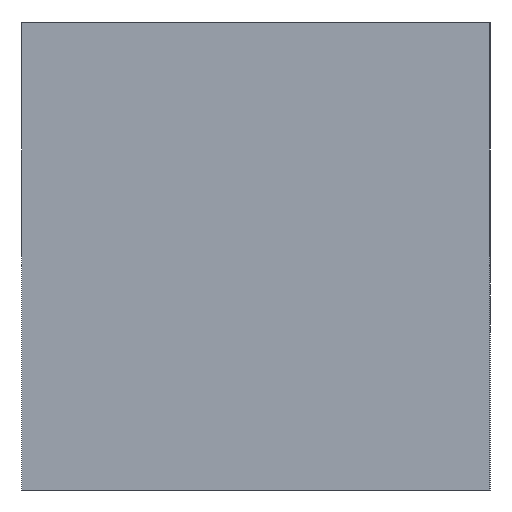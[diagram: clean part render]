
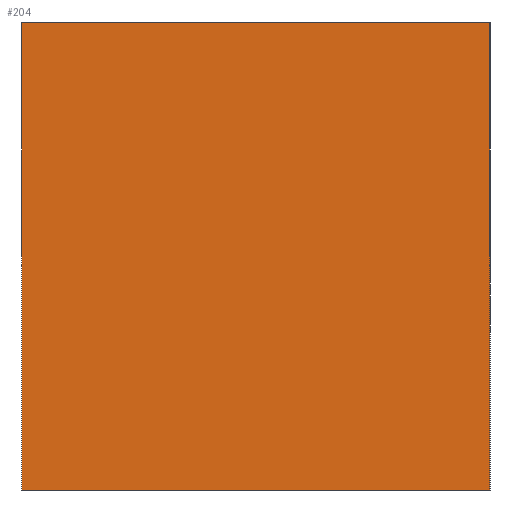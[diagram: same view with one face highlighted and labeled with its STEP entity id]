
A CAD part, left-side view. The second image highlights one B-rep face of the part: STEP entity #204.
In plain terms, the highlighted planar face has unit normal (-1, 0, 0).
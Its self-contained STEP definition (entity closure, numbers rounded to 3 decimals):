
#57=CARTESIAN_POINT('Line Origine',(-45.,34.,0.)) ;
#61=CARTESIAN_POINT('Vertex',(-45.,34.,-17.)) ;
#63=CARTESIAN_POINT('Vertex',(-45.,34.,17.)) ;
#174=CARTESIAN_POINT('Axis2P3D Location',(-45.,0.,-0.)) ;
#179=CARTESIAN_POINT('Line Origine',(-45.,17.,-17.)) ;
#183=CARTESIAN_POINT('Vertex',(-45.,0.,-17.)) ;
#186=CARTESIAN_POINT('Line Origine',(-45.,0.,0.)) ;
#190=CARTESIAN_POINT('Vertex',(-45.,0.,17.)) ;
#193=CARTESIAN_POINT('Line Origine',(-45.,17.,17.)) ;
#58=DIRECTION('Vector Direction',(0.,0.,1.)) ;
#175=DIRECTION('Axis2P3D Direction',(1.,0.,-0.)) ;
#176=DIRECTION('Axis2P3D XDirection',(-0.,0.,-1.)) ;
#180=DIRECTION('Vector Direction',(0.,1.,0.)) ;
#187=DIRECTION('Vector Direction',(0.,0.,-1.)) ;
#194=DIRECTION('Vector Direction',(0.,-1.,0.)) ;
#177=AXIS2_PLACEMENT_3D('Plane Axis2P3D',#174,#175,#176) ;
#199=ORIENTED_EDGE('',*,*,#65,.F.) ;
#200=ORIENTED_EDGE('',*,*,#185,.F.) ;
#201=ORIENTED_EDGE('',*,*,#192,.F.) ;
#202=ORIENTED_EDGE('',*,*,#197,.F.) ;
#59=VECTOR('Line Direction',#58,1.) ;
#181=VECTOR('Line Direction',#180,1.) ;
#188=VECTOR('Line Direction',#187,1.) ;
#195=VECTOR('Line Direction',#194,1.) ;
#204=ADVANCED_FACE('760-3030080',(#203),#178,.F.) ;
#65=EDGE_CURVE('',#62,#64,#60,.T.) ;
#185=EDGE_CURVE('',#184,#62,#182,.T.) ;
#192=EDGE_CURVE('',#191,#184,#189,.T.) ;
#197=EDGE_CURVE('',#64,#191,#196,.T.) ;
#198=EDGE_LOOP('',(#199,#200,#201,#202)) ;
#203=FACE_OUTER_BOUND('',#198,.T.) ;
#60=LINE('Line',#57,#59) ;
#182=LINE('Line',#179,#181) ;
#189=LINE('Line',#186,#188) ;
#196=LINE('Line',#193,#195) ;
#178=PLANE('Plane',#177) ;
#62=VERTEX_POINT('',#61) ;
#64=VERTEX_POINT('',#63) ;
#184=VERTEX_POINT('',#183) ;
#191=VERTEX_POINT('',#190) ;
